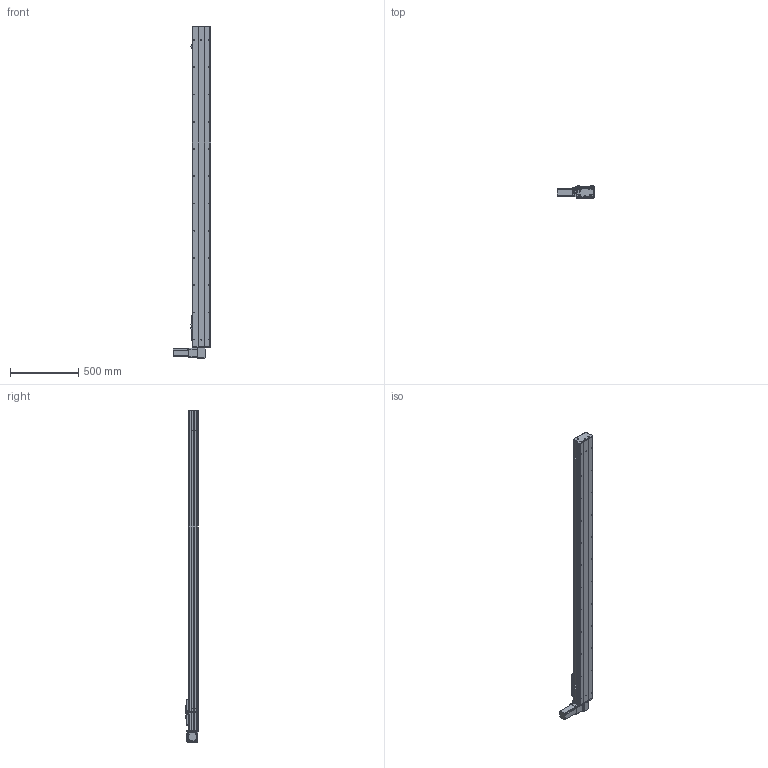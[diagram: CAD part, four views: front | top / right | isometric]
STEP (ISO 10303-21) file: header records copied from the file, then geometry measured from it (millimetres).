
FILE_DESCRIPTION (( 'STEP AP203' ), '1' );
FILE_NAME ('Y135CB-D90-S2050-BD-P400W.STEP', '2020-02-19T03:56:37', ( '微软用户' ), ( '微软中国' ), 'SwSTEP 2.0', 'SolidWorks 2017', '' );
FILE_SCHEMA (( 'CONFIG_CONTROL_DESIGN' ));
Length unit declared in the file: millimetre
Products named in the file (16): Y10B--々湍喘謫眊--666; san松下电机400不带刹车----; 0B-薊粣ん眊; 5CB --掛极耜裔啣-; Y135CB-D90-S2050-BD-P400W; C-詩湍揤踡え-陔; 135CB--詩湍-CE; Y135CB-耜裔; Y100-135俋离換覜ん--; 135CB---遴掛极.-; Y135C-陔俋离換覜結え-; 35CB---喘謫眊楊擘啣; 5C--俋欶; 0B-埴倛裔啣; C-雄赽釱--; 0B-源倛裔啣
Assembly tree (19 placements, depth 2):
  Y135CB-D90-S2050-BD-P400W
    Y135CB-耜裔
    135CB---遴掛极.-
    35CB---喘謫眊楊擘啣
    0B-埴倛裔啣
    0B-源倛裔啣
    san松下电机400不带刹车----
    5CB --掛极耜裔啣-  x2
    C-詩湍揤踡え-陔  x2
    135CB--詩湍-CE
    Y100-135俋离換覜ん--  x3
    Y135C-陔俋离換覜結え-
    5C--俋欶
    C-雄赽釱--
    Y10B--々湍喘謫眊--666
    0B-薊粣ん眊
Bounding box: 272 x 91 x 2438 mm (x, y, z)
Volume: 7113606.1 mm3; surface area: 2767119.9 mm2
Topology: 19 solids, 19 shells, 875 faces, 2356 edges, 1560 vertices
Faces by surface type: cylinder 444, plane 415, cone 16
Entity records: 27016 total; most frequent: DIRECTION 4504, CARTESIAN_POINT 4467, ORIENTED_EDGE 4188, EDGE_CURVE 2094, AXIS2_PLACEMENT_3D 1657, VERTEX_POINT 1388, VECTOR 1190, LINE 1190
